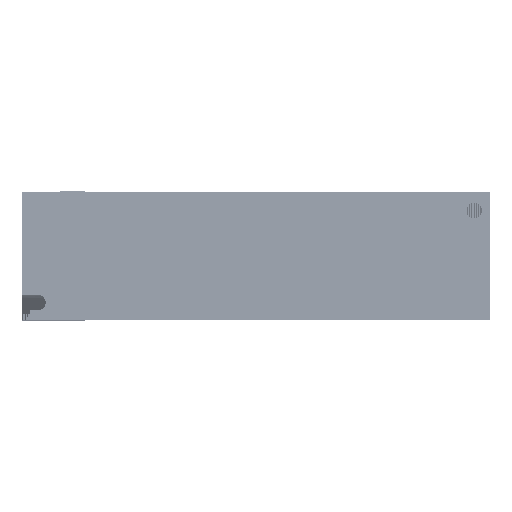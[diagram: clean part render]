
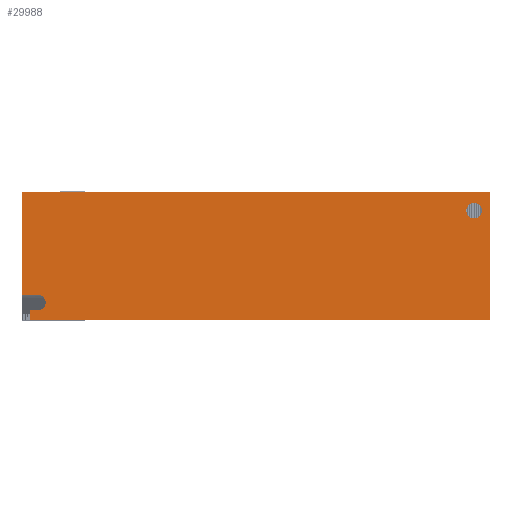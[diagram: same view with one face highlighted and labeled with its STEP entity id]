
A CAD part, top view. The second image highlights one B-rep face of the part: STEP entity #29988.
In plain terms, the highlighted planar face has unit normal (0, 0, 1).
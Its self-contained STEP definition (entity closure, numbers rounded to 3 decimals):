
#6125=DIRECTION('',(1.,0.,0.));
#6126=VECTOR('',#6125,150.);
#6127=CARTESIAN_POINT('',(-86.449,31.319,220.743));
#6128=LINE('',#6127,#6126);
#6129=DIRECTION('',(0.,-1.,0.));
#6130=VECTOR('',#6129,41.);
#6131=CARTESIAN_POINT('',(63.551,31.319,220.751));
#6132=LINE('',#6131,#6130);
#6133=CARTESIAN_POINT('',(-81.449,-4.181,
220.743));
#6134=DIRECTION('',(0.,0.,1.));
#6135=DIRECTION('',(0.,-1.,0.));
#6136=AXIS2_PLACEMENT_3D('',#6133,#6134,#6135);
#6138=CARTESIAN_POINT('',(-81.449,-4.181,
220.743));
#6139=DIRECTION('',(0.,0.,1.));
#6140=DIRECTION('',(1.,0.,0.));
#6141=AXIS2_PLACEMENT_3D('',#6138,#6139,#6140);
#6143=DIRECTION('',(0.,1.,0.));
#6144=VECTOR('',#6143,33.);
#6145=CARTESIAN_POINT('',(-86.449,-1.681,220.743));
#6146=LINE('',#6145,#6144);
#6147=CARTESIAN_POINT('',(58.551,25.319,220.75));
#6148=DIRECTION('',(0.,0.,1.));
#6149=DIRECTION('',(1.,0.,0.));
#6150=AXIS2_PLACEMENT_3D('',#6147,#6148,#6149);
#6152=CARTESIAN_POINT('',(58.551,25.319,220.75));
#6153=DIRECTION('',(0.,0.,1.));
#6154=DIRECTION('',(-1.,0.,0.));
#6155=AXIS2_PLACEMENT_3D('',#6152,#6153,#6154);
#6161=DIRECTION('',(1.,0.,0.));
#6162=VECTOR('',#6161,147.5);
#6163=CARTESIAN_POINT('',(-83.949,-9.681,
220.743));
#6164=LINE('',#6163,#6162);
#10119=DIRECTION('',(1.,0.,0.));
#10120=VECTOR('',#10119,5.);
#10121=CARTESIAN_POINT('',(-86.449,-1.681,220.743));
#10122=LINE('',#10121,#10120);
#10139=DIRECTION('',(-1.,0.,0.));
#10140=VECTOR('',#10139,2.5);
#10141=CARTESIAN_POINT('',(-81.449,-6.681,
220.743));
#10142=LINE('',#10141,#10140);
#10143=DIRECTION('',(0.,-1.,0.));
#10144=VECTOR('',#10143,3.);
#10145=CARTESIAN_POINT('',(-83.949,-6.681,
220.743));
#10146=LINE('',#10145,#10144);
#15507=CARTESIAN_POINT('',(63.551,31.319,220.751));
#15508=VERTEX_POINT('',#15507);
#15509=CARTESIAN_POINT('',(63.551,-9.681,
220.751));
#15510=VERTEX_POINT('',#15509);
#16060=CARTESIAN_POINT('',(-86.449,-1.681,220.743));
#16061=CARTESIAN_POINT('',(-86.449,31.319,220.743));
#16062=VERTEX_POINT('',#16060);
#16063=VERTEX_POINT('',#16061);
#16388=CARTESIAN_POINT('',(61.051,25.319,220.75));
#16389=VERTEX_POINT('',#16388);
#16390=CARTESIAN_POINT('',(56.051,25.319,220.75));
#16391=VERTEX_POINT('',#16390);
#16392=CARTESIAN_POINT('',(-81.449,-1.681,
220.743));
#16393=VERTEX_POINT('',#16392);
#16394=CARTESIAN_POINT('',(-78.949,-4.181,
220.743));
#16395=VERTEX_POINT('',#16394);
#16396=CARTESIAN_POINT('',(-81.449,-6.681,
220.743));
#16397=VERTEX_POINT('',#16396);
#16398=CARTESIAN_POINT('',(-83.949,-6.681,
220.743));
#16399=VERTEX_POINT('',#16398);
#16400=CARTESIAN_POINT('',(-83.949,-9.681,
220.743));
#16401=VERTEX_POINT('',#16400);
#29960=CARTESIAN_POINT('',(-11.449,10.819,
220.747));
#29961=DIRECTION('',(0.,0.,1.));
#29962=DIRECTION('',(-1.,0.,0.));
#29963=AXIS2_PLACEMENT_3D('',#29960,#29961,#29962);
#29964=PLANE('',#29963);
#29965=ORIENTED_EDGE('',*,*,#29839,.T.);
#29966=ORIENTED_EDGE('',*,*,#21830,.T.);
#29968=ORIENTED_EDGE('',*,*,#29967,.F.);
#29970=ORIENTED_EDGE('',*,*,#29969,.F.);
#29972=ORIENTED_EDGE('',*,*,#29971,.F.);
#29974=ORIENTED_EDGE('',*,*,#29973,.T.);
#29976=ORIENTED_EDGE('',*,*,#29975,.T.);
#29978=ORIENTED_EDGE('',*,*,#29977,.F.);
#29979=ORIENTED_EDGE('',*,*,#23898,.T.);
#29980=EDGE_LOOP('',(#29965,#29966,#29968,#29970,#29972,#29974,#29976,#29978,
#29979));
#29981=FACE_OUTER_BOUND('',#29980,.F.);
#29983=ORIENTED_EDGE('',*,*,#29982,.T.);
#29985=ORIENTED_EDGE('',*,*,#29984,.T.);
#29986=EDGE_LOOP('',(#29983,#29985));
#29987=FACE_BOUND('',#29986,.F.);
#29988=ADVANCED_FACE('',(#29981,#29987),#29964,.T.);
#6137=CIRCLE('',#6136,2.5);
#6142=CIRCLE('',#6141,2.5);
#6151=CIRCLE('',#6150,2.5);
#6156=CIRCLE('',#6155,2.5);
#21830=EDGE_CURVE('',#15508,#15510,#6132,.T.);
#23898=EDGE_CURVE('',#16062,#16063,#6146,.T.);
#29839=EDGE_CURVE('',#16063,#15508,#6128,.T.);
#29967=EDGE_CURVE('',#16401,#15510,#6164,.T.);
#29969=EDGE_CURVE('',#16399,#16401,#10146,.T.);
#29971=EDGE_CURVE('',#16397,#16399,#10142,.T.);
#29973=EDGE_CURVE('',#16397,#16395,#6137,.T.);
#29975=EDGE_CURVE('',#16395,#16393,#6142,.T.);
#29977=EDGE_CURVE('',#16062,#16393,#10122,.T.);
#29982=EDGE_CURVE('',#16389,#16391,#6151,.T.);
#29984=EDGE_CURVE('',#16391,#16389,#6156,.T.);
